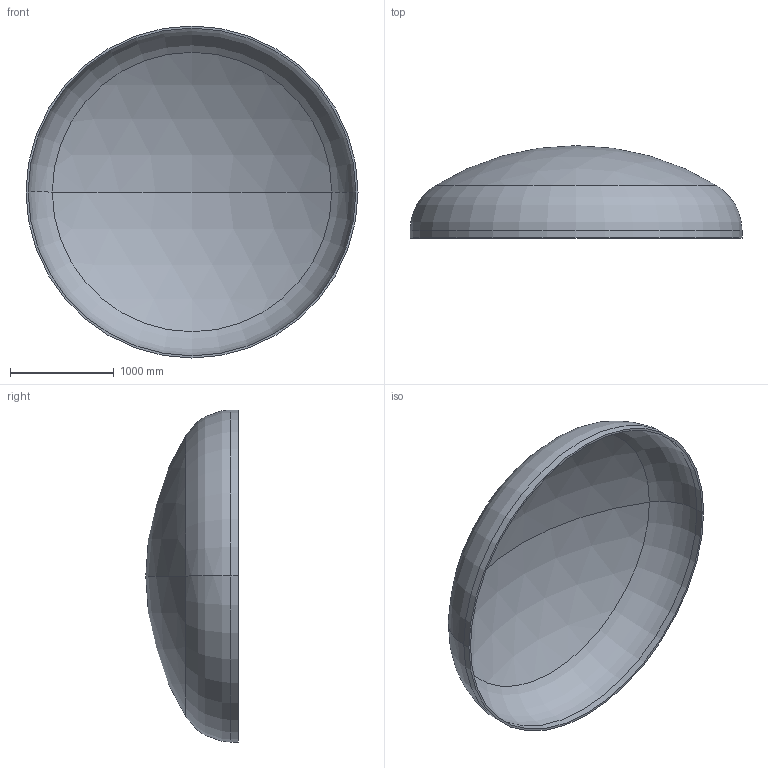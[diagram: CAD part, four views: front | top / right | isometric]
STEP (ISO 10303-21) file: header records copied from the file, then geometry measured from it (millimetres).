
FILE_DESCRIPTION (( 'STEP AP203' ), '1' );
FILE_NAME ('DIN 28013 Korbbogenform_-_Boden DIN 28013 - 3200 x 70 - I - s=21.step', '2016-07-01T18:24:40', ( '' ), ( '' ), 'SwSTEP 2.0', 'SolidWorks 2013', '' );
FILE_SCHEMA (( 'CONFIG_CONTROL_DESIGN' ));
Length unit declared in the file: millimetre
Products named in the file (1): DIN 28013 Korbbogenform_-_Boden DIN 28013 - 3200 x 70 - I - s=21
Bounding box: 3200 x 890.61 x 3200 mm (x, y, z)
Volume: 246319946.7 mm3; surface area: 23669686.7 mm2
Topology: 1 solids, 1 shells, 13 faces, 24 edges, 14 vertices
Faces by surface type: torus 4, cylinder 4, sphere 4, plane 1
Entity records: 407 total; most frequent: DIRECTION 72, CARTESIAN_POINT 52, ORIENTED_EDGE 48, AXIS2_PLACEMENT_3D 34, EDGE_CURVE 24, CIRCLE 20, VERTEX_POINT 14, EDGE_LOOP 14
